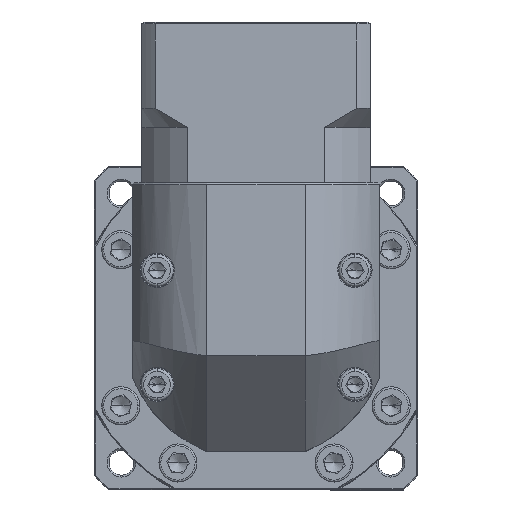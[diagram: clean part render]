
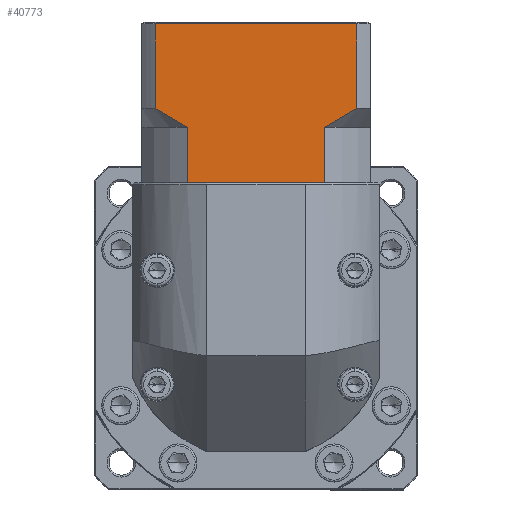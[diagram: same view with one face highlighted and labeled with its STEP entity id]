
A CAD part, top view. The second image highlights one B-rep face of the part: STEP entity #40773.
In plain terms, the highlighted planar face has unit normal (0, 0, 1).
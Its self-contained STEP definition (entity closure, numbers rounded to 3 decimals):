
#405 = ORIENTED_EDGE ( 'NONE', *, *, #24179, .T. ) ;
#1109 = CARTESIAN_POINT ( 'NONE',  ( -52.223, 93.029, 45.955 ) ) ;
#1537 = ORIENTED_EDGE ( 'NONE', *, *, #124086, .T. ) ;
#2625 = B_SPLINE_CURVE_WITH_KNOTS ( 'NONE', 3,
 ( #21895, #75224, #52924, #73825, #64478, #1109 ),
 .UNSPECIFIED., .F., .F.,
 ( 4, 2, 4 ),
 ( 0.1, 0.104, 0.109 ),
 .UNSPECIFIED. ) ;
#8352 = CARTESIAN_POINT ( 'NONE',  ( -108.681, 73.529, 45.955 ) ) ;
#12442 = CARTESIAN_POINT ( 'NONE',  ( -96.708, 88.029, 45.955 ) ) ;
#13189 = CARTESIAN_POINT ( 'NONE',  ( -52.223, 115.229, 45.955 ) ) ;
#14895 = DIRECTION ( 'NONE',  ( 0., 1., 0. ) ) ;
#14997 = CARTESIAN_POINT ( 'NONE',  ( -60.653, 73.529, 45.955 ) ) ;
#15756 = CARTESIAN_POINT ( 'NONE',  ( -105.138, 93.029, 45.955 ) ) ;
#16693 = PLANE ( 'NONE',  #24622 ) ;
#21895 = CARTESIAN_POINT ( 'NONE',  ( -60.653, 88.029, 45.955 ) ) ;
#21922 = VECTOR ( 'NONE', #37882, 1000. ) ;
#24179 = EDGE_CURVE ( 'NONE', #71041, #72769, #2625, .T. ) ;
#24622 = AXIS2_PLACEMENT_3D ( 'NONE', #37031, #90276, #48116 ) ;
#27193 = CARTESIAN_POINT ( 'NONE',  ( -96.708, 73.529, 45.955 ) ) ;
#28756 = CARTESIAN_POINT ( 'NONE',  ( -96.708, 88.029, 45.955 ) ) ;
#28817 = DIRECTION ( 'NONE',  ( 0., -1., 0. ) ) ;
#31314 = CARTESIAN_POINT ( 'NONE',  ( -61.644, 73.529, 45.955 ) ) ;
#31580 = ORIENTED_EDGE ( 'NONE', *, *, #47280, .F. ) ;
#33160 = ORIENTED_EDGE ( 'NONE', *, *, #95860, .T. ) ;
#34028 = ORIENTED_EDGE ( 'NONE', *, *, #88088, .F. ) ;
#36387 = VECTOR ( 'NONE', #111545, 1000. ) ;
#37031 = CARTESIAN_POINT ( 'NONE',  ( -108.681, 115.729, 45.955 ) ) ;
#37882 = DIRECTION ( 'NONE',  ( -1., 0., 0. ) ) ;
#37945 = ORIENTED_EDGE ( 'NONE', *, *, #93966, .F. ) ;
#38373 = ORIENTED_EDGE ( 'NONE', *, *, #52966, .T. ) ;
#38771 = VERTEX_POINT ( 'NONE', #119708 ) ;
#39917 = VERTEX_POINT ( 'NONE', #12442 ) ;
#40773 = ADVANCED_FACE ( 'NONE', ( #86370 ), #16693, .F. ) ;
#42743 = VECTOR ( 'NONE', #78415, 1000. ) ;
#45395 = CARTESIAN_POINT ( 'NONE',  ( -98.16, 88.776, 45.955 ) ) ;
#47280 = EDGE_CURVE ( 'NONE', #71041, #109216, #78649, .T. ) ;
#48116 = DIRECTION ( 'NONE',  ( 0., 1., 0. ) ) ;
#49430 = VECTOR ( 'NONE', #51130, 1000. ) ;
#50580 = B_SPLINE_CURVE_WITH_KNOTS ( 'NONE', 3,
 ( #15756, #78305, #108797, #77854, #45395, #119869 ),
 .UNSPECIFIED., .F., .F.,
 ( 4, 2, 4 ),
 ( 0.052, 0.057, 0.062 ),
 .UNSPECIFIED. ) ;
#51130 = DIRECTION ( 'NONE',  ( 1., 0., 0. ) ) ;
#52155 = VERTEX_POINT ( 'NONE', #31314 ) ;
#52924 = CARTESIAN_POINT ( 'NONE',  ( -57.771, 89.579, 45.955 ) ) ;
#52966 = EDGE_CURVE ( 'NONE', #85488, #89173, #63320, .T. ) ;
#54307 = LINE ( 'NONE', #68197, #42743 ) ;
#56985 = CARTESIAN_POINT ( 'NONE',  ( -105.138, 88.029, 45.955 ) ) ;
#57394 = EDGE_CURVE ( 'NONE', #60927, #39917, #50580, .T. ) ;
#57853 = CARTESIAN_POINT ( 'NONE',  ( -105.138, 115.229, 45.955 ) ) ;
#60927 = VERTEX_POINT ( 'NONE', #89050 ) ;
#63320 = LINE ( 'NONE', #133243, #21922 ) ;
#64478 = CARTESIAN_POINT ( 'NONE',  ( -53.586, 92.127, 45.955 ) ) ;
#68197 = CARTESIAN_POINT ( 'NONE',  ( -108.681, 73.529, 45.955 ) ) ;
#69922 = VECTOR ( 'NONE', #14895, 1000. ) ;
#71041 = VERTEX_POINT ( 'NONE', #114113 ) ;
#72289 = EDGE_LOOP ( 'NONE', ( #34028, #38373, #129507, #87384, #37945, #33160, #101399, #1537, #31580, #405 ) ) ;
#72769 = VERTEX_POINT ( 'NONE', #135049 ) ;
#73825 = CARTESIAN_POINT ( 'NONE',  ( -54.966, 91.253, 45.955 ) ) ;
#74952 = EDGE_CURVE ( 'NONE', #38771, #52155, #133255, .T. ) ;
#75224 = CARTESIAN_POINT ( 'NONE',  ( -59.196, 88.779, 45.955 ) ) ;
#77854 = CARTESIAN_POINT ( 'NONE',  ( -99.592, 89.58, 45.955 ) ) ;
#78305 = CARTESIAN_POINT ( 'NONE',  ( -103.778, 92.129, 45.955 ) ) ;
#78415 = DIRECTION ( 'NONE',  ( 1., 0., 0. ) ) ;
#78649 = LINE ( 'NONE', #133486, #121566 ) ;
#80978 = LINE ( 'NONE', #103861, #49430 ) ;
#85488 = VERTEX_POINT ( 'NONE', #13189 ) ;
#86370 = FACE_OUTER_BOUND ( 'NONE', #72289, .T. ) ;
#87384 = ORIENTED_EDGE ( 'NONE', *, *, #57394, .T. ) ;
#88088 = EDGE_CURVE ( 'NONE', #85488, #72769, #124145, .T. ) ;
#89050 = CARTESIAN_POINT ( 'NONE',  ( -105.138, 93.029, 45.955 ) ) ;
#89173 = VERTEX_POINT ( 'NONE', #57853 ) ;
#90276 = DIRECTION ( 'NONE',  ( 0., 0., -1. ) ) ;
#93637 = DIRECTION ( 'NONE',  ( 0., 1., 0. ) ) ;
#93966 = EDGE_CURVE ( 'NONE', #111887, #39917, #101773, .T. ) ;
#95860 = EDGE_CURVE ( 'NONE', #111887, #38771, #54307, .T. ) ;
#98020 = LINE ( 'NONE', #56985, #69922 ) ;
#101399 = ORIENTED_EDGE ( 'NONE', *, *, #74952, .T. ) ;
#101773 = LINE ( 'NONE', #28756, #126665 ) ;
#103861 = CARTESIAN_POINT ( 'NONE',  ( -108.681, 73.529, 45.955 ) ) ;
#108797 = CARTESIAN_POINT ( 'NONE',  ( -102.4, 91.256, 45.955 ) ) ;
#109216 = VERTEX_POINT ( 'NONE', #14997 ) ;
#111545 = DIRECTION ( 'NONE',  ( 0., -1., 0. ) ) ;
#111887 = VERTEX_POINT ( 'NONE', #27193 ) ;
#113787 = DIRECTION ( 'NONE',  ( 1., 0., 0. ) ) ;
#114113 = CARTESIAN_POINT ( 'NONE',  ( -60.653, 88.029, 45.955 ) ) ;
#115776 = CARTESIAN_POINT ( 'NONE',  ( -52.223, 88.029, 45.955 ) ) ;
#119708 = CARTESIAN_POINT ( 'NONE',  ( -95.717, 73.529, 45.955 ) ) ;
#119869 = CARTESIAN_POINT ( 'NONE',  ( -96.708, 88.029, 45.955 ) ) ;
#121566 = VECTOR ( 'NONE', #28817, 1000. ) ;
#123261 = VECTOR ( 'NONE', #113787, 1000. ) ;
#124086 = EDGE_CURVE ( 'NONE', #52155, #109216, #80978, .T. ) ;
#124145 = LINE ( 'NONE', #115776, #36387 ) ;
#126665 = VECTOR ( 'NONE', #93637, 1000. ) ;
#129208 = EDGE_CURVE ( 'NONE', #60927, #89173, #98020, .T. ) ;
#129507 = ORIENTED_EDGE ( 'NONE', *, *, #129208, .F. ) ;
#133243 = CARTESIAN_POINT ( 'NONE',  ( -108.681, 115.229, 45.955 ) ) ;
#133255 = LINE ( 'NONE', #8352, #123261 ) ;
#133486 = CARTESIAN_POINT ( 'NONE',  ( -60.653, 88.029, 45.955 ) ) ;
#135049 = CARTESIAN_POINT ( 'NONE',  ( -52.223, 93.029, 45.955 ) ) ;
